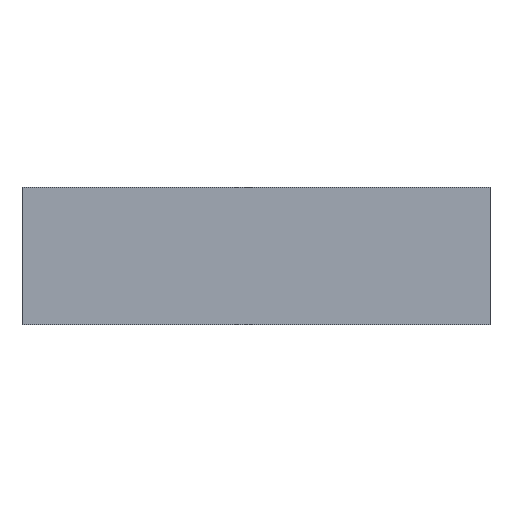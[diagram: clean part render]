
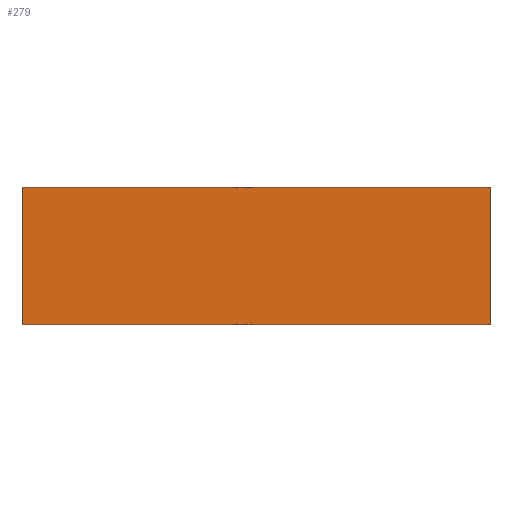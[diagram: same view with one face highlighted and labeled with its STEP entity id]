
A CAD part, front view. The second image highlights one B-rep face of the part: STEP entity #279.
In plain terms, the highlighted planar face has unit normal (0, -1, 0).
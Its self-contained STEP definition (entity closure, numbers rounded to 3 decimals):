
#17 = CARTESIAN_POINT ( 'NONE',  ( 204., 0., 0. ) ) ;
#20 = CARTESIAN_POINT ( 'NONE',  ( 204., 0., 120. ) ) ;
#39 = CARTESIAN_POINT ( 'NONE',  ( -204., 0., 0. ) ) ;
#74 = VERTEX_POINT ( 'NONE', #39 ) ;
#85 = VERTEX_POINT ( 'NONE', #17 ) ;
#89 = VERTEX_POINT ( 'NONE', #126 ) ;
#103 = VERTEX_POINT ( 'NONE', #20 ) ;
#126 = CARTESIAN_POINT ( 'NONE',  ( -204., 0., 120. ) ) ;
#148 = DIRECTION ( 'NONE',  ( 1., 0., 0. ) ) ;
#155 = CARTESIAN_POINT ( 'NONE',  ( -204., 0., 0. ) ) ;
#191 = CARTESIAN_POINT ( 'NONE',  ( -204., 0., 120. ) ) ;
#196 = DIRECTION ( 'NONE',  ( 1., 0., 0. ) ) ;
#207 = CARTESIAN_POINT ( 'NONE',  ( -204., 0., 120. ) ) ;
#208 = DIRECTION ( 'NONE',  ( 0., 0., -1. ) ) ;
#211 = EDGE_CURVE ( 'NONE', #74, #85, #620, .T. ) ;
#232 = AXIS2_PLACEMENT_3D ( 'NONE', #356, #388, #386 ) ;
#242 = EDGE_CURVE ( 'NONE', #89, #103, #643, .T. ) ;
#252 = EDGE_CURVE ( 'NONE', #89, #74, #659, .T. ) ;
#267 = EDGE_CURVE ( 'NONE', #103, #85, #679, .T. ) ;
#279 = ADVANCED_FACE ( 'NONE', ( #691 ), #364, .F. ) ;
#356 = CARTESIAN_POINT ( 'NONE',  ( -204., 0., 120. ) ) ;
#364 = PLANE ( 'NONE',  #232 ) ;
#386 = DIRECTION ( 'NONE',  ( -1., 0., 0. ) ) ;
#388 = DIRECTION ( 'NONE',  ( 0., 1., 0. ) ) ;
#447 = ORIENTED_EDGE ( 'NONE', *, *, #242, .F. ) ;
#461 = EDGE_LOOP ( 'NONE', ( #523, #484, #447, #529 ) ) ;
#484 = ORIENTED_EDGE ( 'NONE', *, *, #267, .F. ) ;
#523 = ORIENTED_EDGE ( 'NONE', *, *, #211, .T. ) ;
#529 = ORIENTED_EDGE ( 'NONE', *, *, #252, .T. ) ;
#571 = VECTOR ( 'NONE', #196, 1000. ) ;
#620 = LINE ( 'NONE', #155, #621 ) ;
#621 = VECTOR ( 'NONE', #148, 1000. ) ;
#643 = LINE ( 'NONE', #191, #571 ) ;
#659 = LINE ( 'NONE', #207, #660 ) ;
#660 = VECTOR ( 'NONE', #208, 1000. ) ;
#679 = LINE ( 'NONE', #746, #680 ) ;
#680 = VECTOR ( 'NONE', #728, 1000. ) ;
#691 = FACE_OUTER_BOUND ( 'NONE', #461, .T. ) ;
#728 = DIRECTION ( 'NONE',  ( 0., 0., -1. ) ) ;
#746 = CARTESIAN_POINT ( 'NONE',  ( 204., 0., 120. ) ) ;
